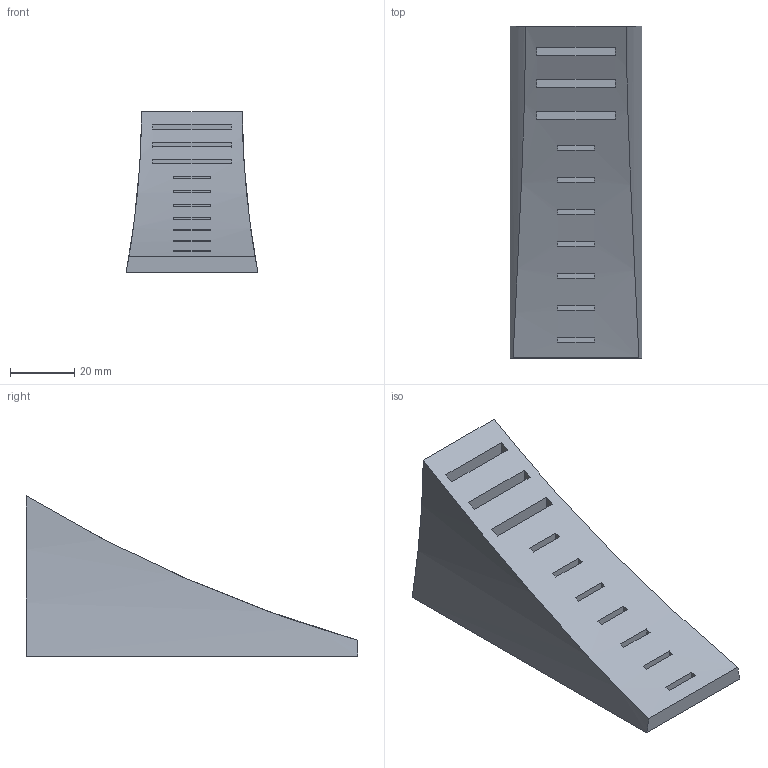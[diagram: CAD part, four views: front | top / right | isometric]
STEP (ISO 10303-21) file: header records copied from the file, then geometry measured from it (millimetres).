
FILE_DESCRIPTION (( 'STEP AP203' ), '1' );
FILE_NAME ('Storage slots b.STEP', '2025-02-15T23:19:26', ( '' ), ( '' ), 'SwSTEP 2.0', 'SolidWorks 2024', '' );
FILE_SCHEMA (( 'CONFIG_CONTROL_DESIGN' ));
Length unit declared in the file: millimetre
Products named in the file (1): Storage slots b
Bounding box: 41.06 x 103.49 x 50 mm (x, y, z)
Volume: 91290.8 mm3; surface area: 17597.8 mm2
Topology: 1 solids, 1 shells, 56 faces, 132 edges, 88 vertices
Faces by surface type: plane 53, cylinder 3
Entity records: 1691 total; most frequent: CARTESIAN_POINT 295, DIRECTION 268, ORIENTED_EDGE 264, EDGE_CURVE 132, LINE 106, VECTOR 106, VERTEX_POINT 88, AXIS2_PLACEMENT_3D 81
